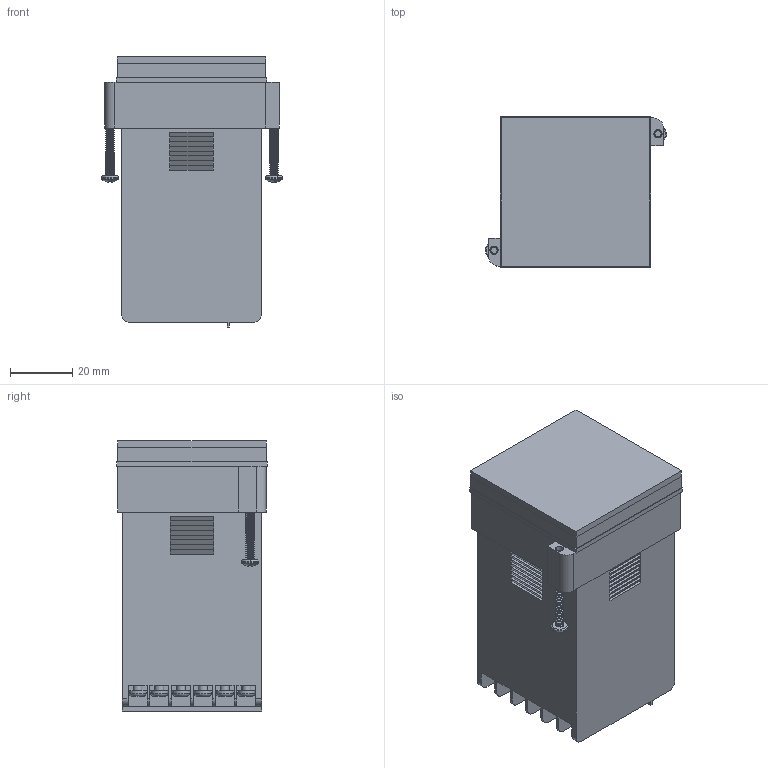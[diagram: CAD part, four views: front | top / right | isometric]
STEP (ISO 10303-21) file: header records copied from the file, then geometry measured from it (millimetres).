
FILE_DESCRIPTION (( 'STEP AP214' ), '1' );
FILE_NAME ('PXU Envelop.STEP', '2022-12-20T16:18:56', ( '' ), ( '' ), 'SwSTEP 2.0', 'SolidWorks 2022', '' );
FILE_SCHEMA (( 'AUTOMOTIVE_DESIGN' ));
Length unit declared in the file: millimetre
Products named in the file (5): Mch scr-pan hd-php #4-40 x .375.stp; PXU Envelop.stp; Mch scr-pan hd-php #4-40 x 1.125.stp; PXU Envelop
Assembly tree (16 placements, depth 3):
  PXU Envelop
    PXU Envelop.stp
      PXU Envelop.stp
      Mch scr-pan hd-php #4-40 x 1.125.stp  x2
      Mch scr-pan hd-php #4-40 x .375.stp  x12
Bounding box: 58.18 x 48.26 x 86.79 mm (x, y, z)
Volume: 172388.4 mm3; surface area: 27222.2 mm2
Topology: 15 solids, 15 shells, 1090 faces, 3266 edges, 2246 vertices
Faces by surface type: plane 550, cylinder 482, torus 32, cone 18, bspline 6, sphere 2
Entity records: 22786 total; most frequent: CARTESIAN_POINT 8764, ORIENTED_EDGE 3276, DIRECTION 2400, EDGE_CURVE 1638, VERTEX_POINT 1111, VECTOR 888, LINE 888, AXIS2_PLACEMENT_3D 756
